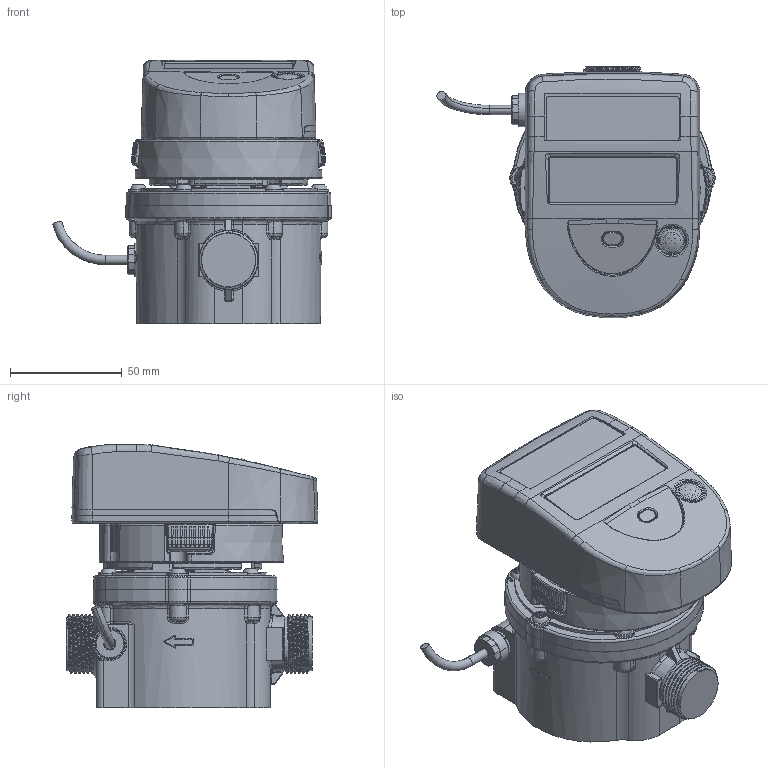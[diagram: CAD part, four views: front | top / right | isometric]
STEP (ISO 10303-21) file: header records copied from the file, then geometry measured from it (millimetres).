
FILE_DESCRIPTION(/* description */ ('Unknown'),/* implementation_level */ '2;1');
FILE_NAME(/* name */ '0789A132_BasePPA_qp1.5_110mm_rempli',/* time_stamp */ '2022-09-22T09:38:34+02:00',/* author */ ('Unknown'),/* organization */ ('Unknown'),/* preprocessor_version */ 'ST-DEVELOPER v18.102',/* originating_system */ 'Solid Edge',/* authorisation */ 'Unknown');
FILE_SCHEMA (('AUTOMOTIVE_DESIGN {1 0 10303 214 3 1 1}'));
Products named in the file (21): 0789A132_BasePPA_qp1.5_110mm_rempli; R_0739-1001 Assembly Calculator-oa5; R_0739P023; R_0739P150_monté; R_0739P022; R_0739P025; R_R_0739P026; R_0739P100-749P100; R_0739P020; R_R_0739P021; R_0749P070; R_0749P072; 0789P200_rempli_0; VIS00001_0; 0789P201_rempli_0; 00759783_vente_sonde Ø5; 00759783_AllCATPart_4_0; 00759783_AllCATPart_5_0; 00759783_AllCATPart_7_0; Flat rubber ringSLDPRT_0; cable ﾘ4.2
Assembly tree (28 placements, depth 3):
  0789A132_BasePPA_qp1.5_110mm_rempli
    R_0739-1001 Assembly Calculator-oa5
      R_0739P023
      R_0739P150_monté
      R_0739P022
      R_0739P025
      R_R_0739P026
      R_0739P100-749P100
      R_0739P020
      R_R_0739P021
    R_0749P070
    R_0749P072  x4
    0789P200_rempli_0
    VIS00001_0  x6
    0789P201_rempli_0
    00759783_vente_sonde Ø5
      00759783_AllCATPart_4_0
      00759783_AllCATPart_5_0
      00759783_AllCATPart_7_0
      Flat rubber ringSLDPRT_0
      cable ﾘ4.2
Bounding box: 124.47 x 112.46 x 117.78 mm (x, y, z)
Volume: 679606.6 mm3; surface area: 152879.3 mm2
Topology: 26 solids, 44 shells, 2447 faces, 5982 edges, 3613 vertices
Faces by surface type: cylinder 829, plane 686, torus 434, cone 271, bspline 143, sphere 84
Full cylindrical faces by diameter (mm): 1.5 x4, 2.05 x3, 2.1 x1, 2.5 x4, 2.6 x3, 2.7 x4, 3.5 x1, 4 x6, 4.2 x6, 4.5 x6, 5 x4, 6 x2, 7.4 x1, 8.5 x1, 8.92 x1, 9 x6, 10 x4, 11.7 x1, 12 x1, 23.997 x1, 24.117 x7, 63.6 x1
Entity records: 80788 total; most frequent: CARTESIAN_POINT 28132, ORIENTED_EDGE 10248, DIRECTION 9639, EDGE_CURVE 5124, AXIS2_PLACEMENT_3D 4073, VERTEX_POINT 3186, FACE_BOUND 2434, EDGE_LOOP 2426
